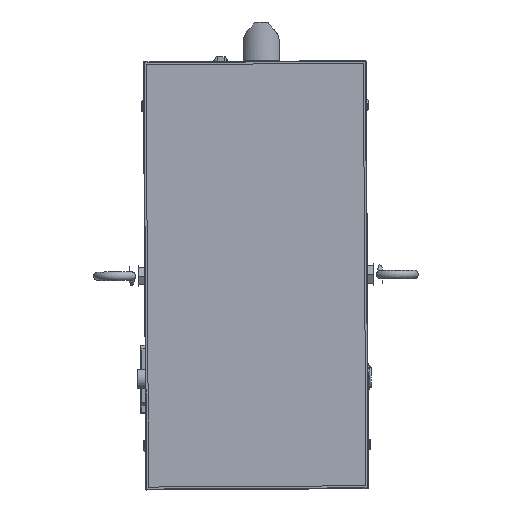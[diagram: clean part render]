
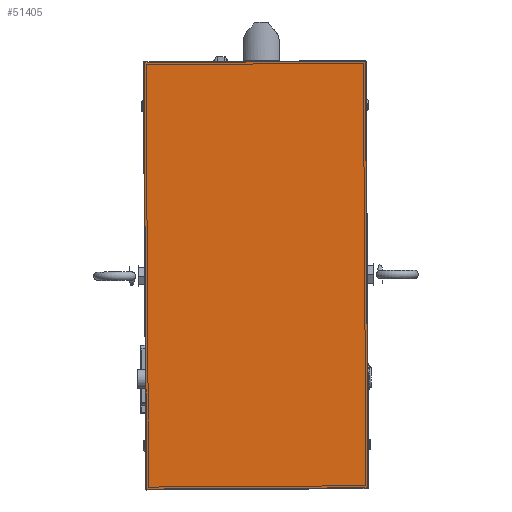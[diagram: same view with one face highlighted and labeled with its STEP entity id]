
A CAD part, top view. The second image highlights one B-rep face of the part: STEP entity #51405.
In plain terms, the highlighted planar face has unit normal (0, 0, 1).
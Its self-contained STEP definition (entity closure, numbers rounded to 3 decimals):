
#2407=PLANE('',#55670);
#7129=FACE_OUTER_BOUND('',#10175,.T.);
#10175=EDGE_LOOP('',(#41139,#41140,#41141,#41142));
#16316=LINE('',#83018,#20044);
#16317=LINE('',#83020,#20045);
#16318=LINE('',#83022,#20046);
#16319=LINE('',#83023,#20047);
#20044=VECTOR('',#65499,10.);
#20045=VECTOR('',#65500,10.);
#20046=VECTOR('',#65501,10.);
#20047=VECTOR('',#65502,10.);
#24606=VERTEX_POINT('',#83016);
#24607=VERTEX_POINT('',#83017);
#24608=VERTEX_POINT('',#83019);
#24609=VERTEX_POINT('',#83021);
#30579=EDGE_CURVE('',#24606,#24607,#16316,.T.);
#30580=EDGE_CURVE('',#24608,#24606,#16317,.T.);
#30581=EDGE_CURVE('',#24609,#24608,#16318,.T.);
#30582=EDGE_CURVE('',#24607,#24609,#16319,.T.);
#41139=ORIENTED_EDGE('',*,*,#30579,.F.);
#41140=ORIENTED_EDGE('',*,*,#30580,.F.);
#41141=ORIENTED_EDGE('',*,*,#30581,.F.);
#41142=ORIENTED_EDGE('',*,*,#30582,.F.);
#51405=ADVANCED_FACE('',(#7129),#2407,.T.);
#55670=AXIS2_PLACEMENT_3D('',#83015,#65497,#65498);
#65497=DIRECTION('center_axis',(0.,0.,
1.));
#65498=DIRECTION('ref_axis',(-0.006,1.,0.));
#65499=DIRECTION('',(0.006,-1.,0.));
#65500=DIRECTION('',(1.,0.006,0.));
#65501=DIRECTION('',(-0.006,1.,0.));
#65502=DIRECTION('',(-1.,-0.006,0.));
#83015=CARTESIAN_POINT('Origin',(-81.415,230.505,810.));
#83016=CARTESIAN_POINT('',(80.072,232.996,810.));
#83017=CARTESIAN_POINT('',(81.998,-80.999,810.));
#83018=CARTESIAN_POINT('',(80.082,231.496,810.));
#83019=CARTESIAN_POINT('',(-82.925,231.996,810.));
#83020=CARTESIAN_POINT('',(-41.425,232.25,810.));
#83021=CARTESIAN_POINT('',(-80.999,-81.998,810.));
#83022=CARTESIAN_POINT('',(-82.915,230.496,810.));
#83023=CARTESIAN_POINT('',(-39.499,-81.744,810.));
